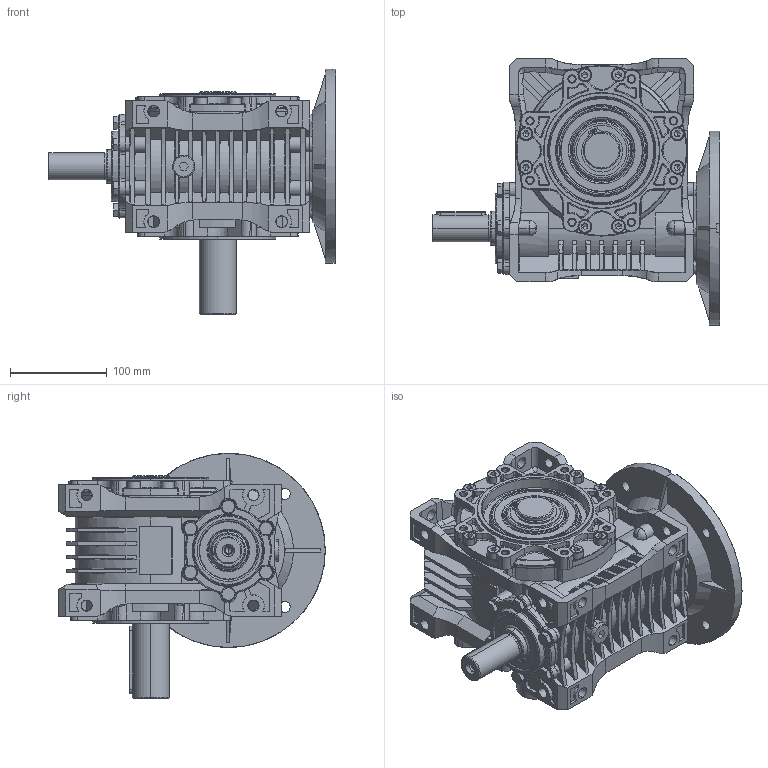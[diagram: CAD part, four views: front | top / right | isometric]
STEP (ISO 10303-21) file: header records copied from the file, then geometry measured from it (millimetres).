
FILE_DESCRIPTION (( 'STEP AP203' ), '1' );
FILE_NAME ('MR-80_200-24-WBS-WJ_1-3D.STEP', '2024-05-07T09:16:26', ( '' ), ( '' ), 'SwSTEP 2.0', 'SolidWorks 2022', '' );
FILE_SCHEMA (( 'CONFIG_CONTROL_DESIGN' ));
Length unit declared in the file: millimetre
Products named in the file (1): MR-80_200-24-WBS-WJ_1-3D
Bounding box: 297 x 275.23 x 253.18 mm (x, y, z)
Volume: 4549645.7 mm3; surface area: 511195.5 mm2
Topology: 1 solids, 40 shells, 3227 faces, 8424 edges, 5317 vertices
Faces by surface type: plane 1245, cone 961, cylinder 448, bspline 298, torus 275
Entity records: 112393 total; most frequent: CARTESIAN_POINT 36547, ORIENTED_EDGE 16602, DIRECTION 15099, EDGE_CURVE 8301, AXIS2_PLACEMENT_3D 5800, VERTEX_POINT 5317, LINE 3499, VECTOR 3499
